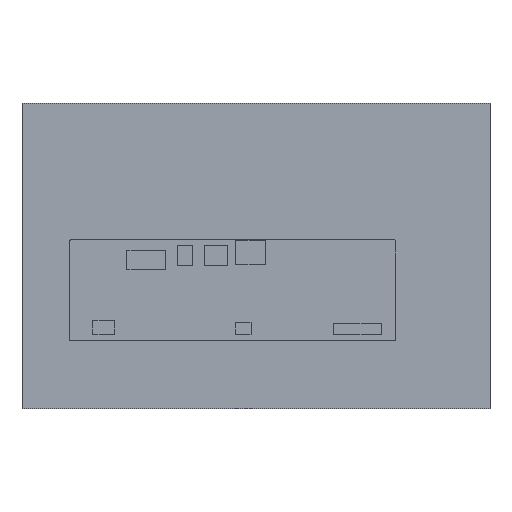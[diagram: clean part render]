
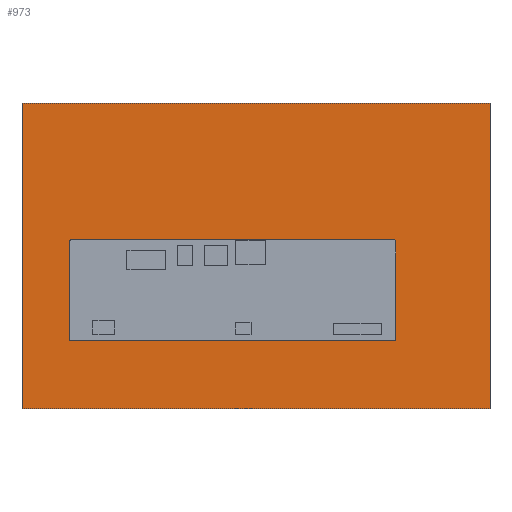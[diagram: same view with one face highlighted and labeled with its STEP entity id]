
A CAD part, top view. The second image highlights one B-rep face of the part: STEP entity #973.
In plain terms, the highlighted planar face has unit normal (0, 0, 1).
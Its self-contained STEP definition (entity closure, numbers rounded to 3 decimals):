
#93=B_SPLINE_CURVE_WITH_KNOTS('',3,(#2729,#2730,#2731,#2732),
 .UNSPECIFIED.,.F.,.F.,(4,4),(0.,1.),.UNSPECIFIED.);
#95=B_SPLINE_CURVE_WITH_KNOTS('',3,(#2744,#2745,#2746,#2747),
 .UNSPECIFIED.,.F.,.F.,(4,4),(0.,1.),.UNSPECIFIED.);
#97=B_SPLINE_CURVE_WITH_KNOTS('',3,(#2756,#2757,#2758,#2759),
 .UNSPECIFIED.,.F.,.F.,(4,4),(0.,1.),.UNSPECIFIED.);
#99=B_SPLINE_CURVE_WITH_KNOTS('',3,(#2768,#2769,#2770,#2771),
 .UNSPECIFIED.,.F.,.F.,(4,4),(0.,1.),.UNSPECIFIED.);
#886=FACE_OUTER_BOUND('',#1153,.T.);
#973=ADVANCED_FACE('',(#886),#1056,.F.);
#1056=PLANE('',#2194);
#1153=EDGE_LOOP('',(#1396,#1397,#1398,#1399));
#1396=ORIENTED_EDGE('',*,*,#1809,.T.);
#1397=ORIENTED_EDGE('',*,*,#1813,.T.);
#1398=ORIENTED_EDGE('',*,*,#1816,.T.);
#1399=ORIENTED_EDGE('',*,*,#1819,.T.);
#1650=VERTEX_POINT('',#2733);
#1651=VERTEX_POINT('',#2734);
#1654=VERTEX_POINT('',#2748);
#1656=VERTEX_POINT('',#2760);
#1809=EDGE_CURVE('',#1650,#1651,#93,.T.);
#1813=EDGE_CURVE('',#1651,#1654,#95,.T.);
#1816=EDGE_CURVE('',#1654,#1656,#97,.T.);
#1819=EDGE_CURVE('',#1656,#1650,#99,.T.);
#2194=AXIS2_PLACEMENT_3D('',#2778,#2420,#2421);
#2420=DIRECTION('',(0.,0.,-1.));
#2421=DIRECTION('',(-1.,0.,0.));
#2729=CARTESIAN_POINT('',(1544.762,94.076,-1.6));
#2730=CARTESIAN_POINT('',(1468.696,94.076,-1.6));
#2731=CARTESIAN_POINT('',(1392.629,94.076,-1.6));
#2732=CARTESIAN_POINT('',(1316.562,94.076,-1.6));
#2733=CARTESIAN_POINT('',(1544.762,94.076,-1.6));
#2734=CARTESIAN_POINT('',(1316.562,94.076,-1.6));
#2744=CARTESIAN_POINT('',(1316.562,94.076,-1.6));
#2745=CARTESIAN_POINT('',(1316.562,44.46,-1.6));
#2746=CARTESIAN_POINT('',(1316.562,-5.157,-1.6));
#2747=CARTESIAN_POINT('',(1316.562,-54.774,-1.6));
#2748=CARTESIAN_POINT('',(1316.562,-54.774,-1.6));
#2756=CARTESIAN_POINT('',(1316.562,-54.774,-1.6));
#2757=CARTESIAN_POINT('',(1392.629,-54.774,-1.6));
#2758=CARTESIAN_POINT('',(1468.696,-54.774,-1.6));
#2759=CARTESIAN_POINT('',(1544.762,-54.774,-1.6));
#2760=CARTESIAN_POINT('',(1544.762,-54.774,-1.6));
#2768=CARTESIAN_POINT('',(1544.762,-54.774,-1.6));
#2769=CARTESIAN_POINT('',(1544.762,-5.157,-1.6));
#2770=CARTESIAN_POINT('',(1544.762,44.46,-1.6));
#2771=CARTESIAN_POINT('',(1544.762,94.076,-1.6));
#2778=CARTESIAN_POINT('',(1430.662,94.076,-1.6));
